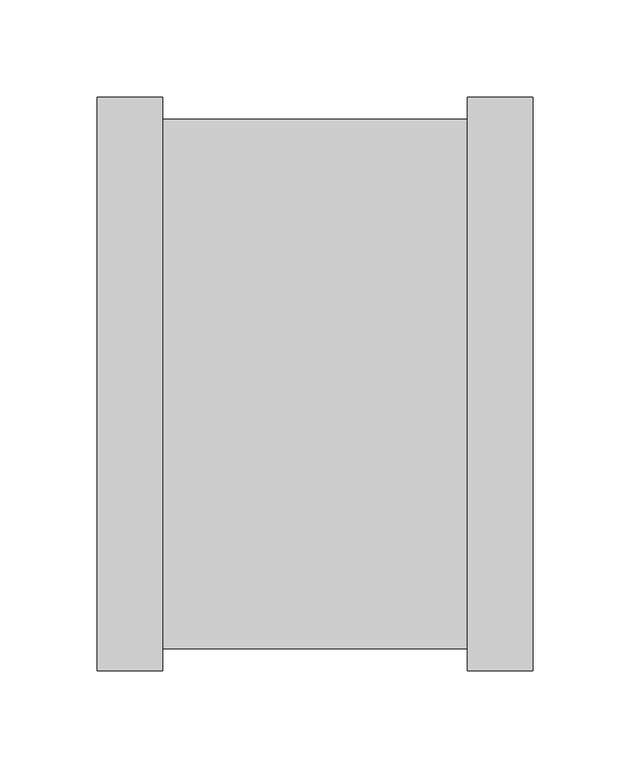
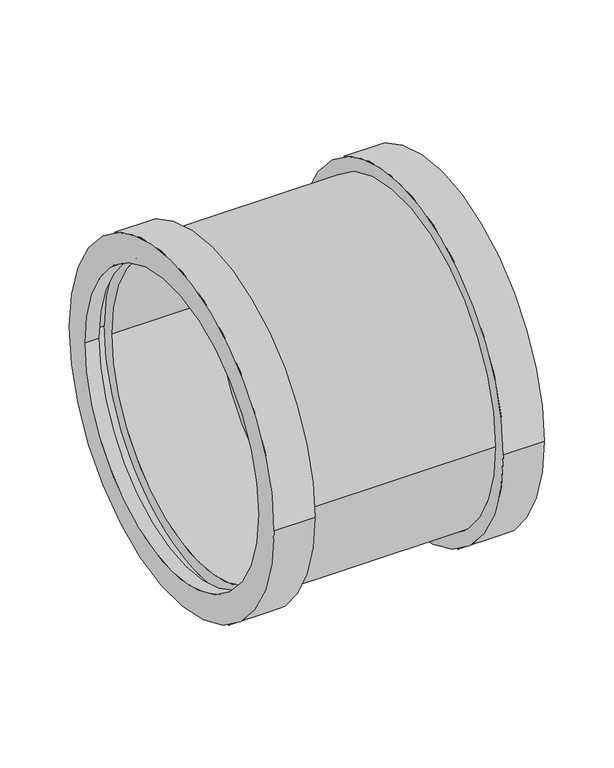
"""IFC4 building model written with IfcOpenShell, lengths in millimetres: pipe fitting geometry, AWADUKT PP Union DSM : Blue No PID."""

from ifc_helpers import new_model, si_unit, frame, origin, place, context, project, spatial, polyline, circle_curve, source, transform, mapped, element, save
from ifc_brep_helpers import plane_surface, cylinder_surface, revolved_surface, advanced_brep


def pipe_fitting_a818c1c7(model_context):
    return source(origin(), model_context, "Body", "AdvancedBrep", [
        advanced_brep(
        [(-86.9, -125.0, 0.0), (-86.9, 125.0, 0.0), (0.0, 125.0, 0.0), (0.0, -125.0, 0.0), (-98.0, -136.4, 0.0), (-98.0, 136.4, 0.0), (-86.9, 136.4, 0.0), (-86.9, -136.4, 0.0), (-109.4, -125.0, 0.0), (-109.4, 125.0, 0.0), (-98.0, 125.0, 0.0), (-98.0, -125.0, 0.0), (-75.5, -147.8, 0.0), (-75.5, 147.8, 0.0), (-109.4, 147.8, 0.0), (-109.4, -147.8, 0.0), (81.5, -136.4, 0.0), (81.5, 136.4, 0.0), (-75.5, 136.4, 0.0), (-75.5, -136.4, 0.0), (115.4, -147.8, 0.0), (115.4, 147.8, 0.0), (81.5, 147.8, 0.0), (81.5, -147.8, 0.0), (104.0, -125.0, 0.0), (104.0, 125.0, 0.0), (115.4, 125.0, 0.0), (115.4, -125.0, 0.0), (92.9, -136.4, 0.0), (92.9, 136.4, 0.0), (104.0, 136.4, 0.0), (104.0, -136.4, 0.0), (6.0, -125.0, 0.0), (6.0, 125.0, 0.0), (92.9, 125.0, 0.0), (92.9, -125.0, 0.0), (0.0, -113.6, 0.0), (0.0, 113.6, 0.0), (6.0, 113.6, 0.0), (6.0, -113.6, 0.0)],
        [
            (0, 1, circle_curve(frame((-86.9, 0.0, 0.0), z_axis=(-1.0, 0.0, 0.0), x_axis=(0.0, 1.0, 0.0)), 125.0)),
            (1, 2),
            (2, 3, circle_curve(frame((0.0, 0.0, 0.0), z_axis=(1.0, 0.0, 0.0), x_axis=(0.0, 1.0, 0.0)), 125.0)),
            (3, 0),
            (4, 5, circle_curve(frame((-98.0, 0.0, 0.0), z_axis=(-1.0, 0.0, 0.0), x_axis=(0.0, 1.0, 0.0)), 136.4)),
            (5, 6),
            (6, 7, circle_curve(frame((-86.9, 0.0, 0.0), z_axis=(1.0, 0.0, 0.0), x_axis=(0.0, 1.0, 0.0)), 136.4)),
            (7, 4),
            (8, 9, circle_curve(frame((-109.4, 0.0, 0.0), z_axis=(-1.0, 0.0, 0.0), x_axis=(0.0, 1.0, 0.0)), 125.0)),
            (9, 10),
            (10, 11, circle_curve(frame((-98.0, 0.0, 0.0), z_axis=(1.0, 0.0, 0.0), x_axis=(0.0, 1.0, 0.0)), 125.0)),
            (11, 8),
            (12, 13, circle_curve(frame((-75.5, 0.0, 0.0), z_axis=(-1.0, 0.0, 0.0), x_axis=(0.0, 1.0, 0.0)), 147.8)),
            (13, 14),
            (14, 15, circle_curve(frame((-109.4, 0.0, 0.0), z_axis=(1.0, 0.0, 0.0), x_axis=(0.0, 1.0, 0.0)), 147.8)),
            (15, 12),
            (16, 17, circle_curve(frame((81.5, 0.0, 0.0), z_axis=(-1.0, 0.0, 0.0), x_axis=(0.0, 1.0, 0.0)), 136.4)),
            (17, 18),
            (18, 19, circle_curve(frame((-75.5, 0.0, 0.0), z_axis=(1.0, 0.0, 0.0), x_axis=(0.0, 1.0, 0.0)), 136.4)),
            (19, 16),
            (20, 21, circle_curve(frame((115.4, 0.0, 0.0), z_axis=(-1.0, 0.0, 0.0), x_axis=(0.0, 1.0, 0.0)), 147.8)),
            (21, 22),
            (22, 23, circle_curve(frame((81.5, 0.0, 0.0), z_axis=(1.0, 0.0, 0.0), x_axis=(0.0, 1.0, 0.0)), 147.8)),
            (23, 20),
            (24, 25, circle_curve(frame((104.0, 0.0, 0.0), z_axis=(-1.0, 0.0, 0.0), x_axis=(0.0, 1.0, 0.0)), 125.0)),
            (25, 26),
            (26, 27, circle_curve(frame((115.4, 0.0, 0.0), z_axis=(1.0, 0.0, 0.0), x_axis=(0.0, 1.0, 0.0)), 125.0)),
            (27, 24),
            (28, 29, circle_curve(frame((92.9, 0.0, 0.0), z_axis=(-1.0, 0.0, 0.0), x_axis=(0.0, 1.0, 0.0)), 136.4)),
            (29, 30),
            (30, 31, circle_curve(frame((104.0, 0.0, 0.0), z_axis=(1.0, 0.0, 0.0), x_axis=(0.0, 1.0, 0.0)), 136.4)),
            (31, 28),
            (32, 33, circle_curve(frame((6.0, 0.0, 0.0), z_axis=(-1.0, 0.0, 0.0), x_axis=(0.0, 1.0, 0.0)), 125.0)),
            (33, 34),
            (34, 35, circle_curve(frame((92.9, 0.0, 0.0), z_axis=(1.0, 0.0, 0.0), x_axis=(0.0, 1.0, 0.0)), 125.0)),
            (35, 32),
            (36, 37, circle_curve(frame((0.0, 0.0, 0.0), z_axis=(-1.0, 0.0, 0.0), x_axis=(0.0, 1.0, 0.0)), 113.6)),
            (37, 38),
            (38, 39, circle_curve(frame((6.0, 0.0, 0.0), z_axis=(1.0, 0.0, 0.0), x_axis=(0.0, 1.0, 0.0)), 113.6)),
            (39, 36),
            (1, 0, circle_curve(frame((-86.9, 0.0, 0.0), z_axis=(-1.0, 0.0, 0.0), x_axis=(0.0, -1.0, 0.0)), 125.0)),
            (3, 2, circle_curve(frame((0.0, 0.0, 0.0), z_axis=(1.0, 0.0, 0.0), x_axis=(0.0, -1.0, 0.0)), 125.0)),
            (6, 7, circle_curve(frame((-86.9, 0.0, 0.0), z_axis=(-1.0, 0.0, 0.0), x_axis=(0.0, -1.0, 0.0)), 136.4)),
            (5, 4, circle_curve(frame((-98.0, 0.0, 0.0), z_axis=(-1.0, 0.0, 0.0), x_axis=(0.0, -1.0, 0.0)), 136.4)),
            (10, 11, circle_curve(frame((-98.0, 0.0, 0.0), z_axis=(-1.0, 0.0, 0.0), x_axis=(0.0, -1.0, 0.0)), 125.0)),
            (9, 8, circle_curve(frame((-109.4, 0.0, 0.0), z_axis=(-1.0, 0.0, 0.0), x_axis=(0.0, -1.0, 0.0)), 125.0)),
            (14, 15, circle_curve(frame((-109.4, 0.0, 0.0), z_axis=(-1.0, 0.0, 0.0), x_axis=(0.0, -1.0, 0.0)), 147.8)),
            (13, 12, circle_curve(frame((-75.5, 0.0, 0.0), z_axis=(-1.0, 0.0, 0.0), x_axis=(0.0, -1.0, 0.0)), 147.8)),
            (18, 19, circle_curve(frame((-75.5, 0.0, 0.0), z_axis=(-1.0, 0.0, 0.0), x_axis=(0.0, -1.0, 0.0)), 136.4)),
            (17, 16, circle_curve(frame((81.5, 0.0, 0.0), z_axis=(-1.0, 0.0, 0.0), x_axis=(0.0, -1.0, 0.0)), 136.4)),
            (22, 23, circle_curve(frame((81.5, 0.0, 0.0), z_axis=(-1.0, 0.0, 0.0), x_axis=(0.0, -1.0, 0.0)), 147.8)),
            (21, 20, circle_curve(frame((115.4, 0.0, 0.0), z_axis=(-1.0, 0.0, 0.0), x_axis=(0.0, -1.0, 0.0)), 147.8)),
            (26, 27, circle_curve(frame((115.4, 0.0, 0.0), z_axis=(-1.0, 0.0, 0.0), x_axis=(0.0, -1.0, 0.0)), 125.0)),
            (25, 24, circle_curve(frame((104.0, 0.0, 0.0), z_axis=(-1.0, 0.0, 0.0), x_axis=(0.0, -1.0, 0.0)), 125.0)),
            (30, 31, circle_curve(frame((104.0, 0.0, 0.0), z_axis=(-1.0, 0.0, 0.0), x_axis=(0.0, -1.0, 0.0)), 136.4)),
            (29, 28, circle_curve(frame((92.9, 0.0, 0.0), z_axis=(-1.0, 0.0, 0.0), x_axis=(0.0, -1.0, 0.0)), 136.4)),
            (34, 35, circle_curve(frame((92.9, 0.0, 0.0), z_axis=(-1.0, 0.0, 0.0), x_axis=(0.0, -1.0, 0.0)), 125.0)),
            (33, 32, circle_curve(frame((6.0, 0.0, 0.0), z_axis=(-1.0, 0.0, 0.0), x_axis=(0.0, -1.0, 0.0)), 125.0)),
            (38, 39, circle_curve(frame((6.0, 0.0, 0.0), z_axis=(-1.0, 0.0, 0.0), x_axis=(0.0, -1.0, 0.0)), 113.6)),
            (37, 36, circle_curve(frame((0.0, 0.0, 0.0), z_axis=(-1.0, 0.0, 0.0), x_axis=(0.0, -1.0, 0.0)), 113.6)),
        ],
        [
            revolved_surface(polyline([(0.0, 125.0, 0.0), (-86.9, 125.0, 0.0)]), (3.0, 0.0, 0.0), (1.0, 0.0, 0.0)),
            revolved_surface(polyline([(-86.9, 136.4, 0.0), (-98.0, 136.4, 0.0)]), (3.0, 0.0, 0.0), (1.0, 0.0, 0.0)),
            revolved_surface(polyline([(-98.0, 125.0, 0.0), (-109.4, 125.0, 0.0)]), (3.0, 0.0, 0.0), (1.0, 0.0, 0.0)),
            cylinder_surface(frame((3.0, 0.0, 0.0), z_axis=(1.0, 0.0, 0.0), x_axis=(0.0, 1.0, 0.0)), 147.8),
            cylinder_surface(frame((3.0, 0.0, 0.0), z_axis=(1.0, 0.0, 0.0), x_axis=(0.0, 1.0, 0.0)), 136.4),
            revolved_surface(polyline([(115.4, 125.0, 0.0), (104.0, 125.0, 0.0)]), (3.0, 0.0, 0.0), (1.0, 0.0, 0.0)),
            revolved_surface(polyline([(104.0, 136.4, 0.0), (92.9, 136.4, 0.0)]), (3.0, 0.0, 0.0), (1.0, 0.0, 0.0)),
            revolved_surface(polyline([(92.9, 125.0, 0.0), (6.0, 125.0, 0.0)]), (3.0, 0.0, 0.0), (1.0, 0.0, 0.0)),
            revolved_surface(polyline([(6.0, 113.6, 0.0), (0.0, 113.6, 0.0)]), (3.0, 0.0, 0.0), (1.0, 0.0, 0.0)),
            revolved_surface(polyline([(0.0, -125.0, 0.0), (-86.9, -125.0, 0.0)]), (3.0, 0.0, 0.0), (1.0, 0.0, 0.0)),
            plane_surface(frame((-86.9, 0.0, 0.0), z_axis=(-1.0, 0.0, 0.0), x_axis=(0.0, -1.0, 0.0))),
            revolved_surface(polyline([(-86.9, -136.4, 0.0), (-98.0, -136.4, 0.0)]), (3.0, 0.0, 0.0), (1.0, 0.0, 0.0)),
            plane_surface(frame((-98.0, 0.0, 0.0), z_axis=(1.0, 0.0, 0.0), x_axis=(0.0, -1.0, 0.0))),
            revolved_surface(polyline([(-98.0, -125.0, 0.0), (-109.4, -125.0, 0.0)]), (3.0, 0.0, 0.0), (1.0, 0.0, 0.0)),
            plane_surface(frame((-109.4, 0.0, 0.0), z_axis=(-1.0, 0.0, 0.0), x_axis=(0.0, -1.0, 0.0))),
            cylinder_surface(frame((3.0, 0.0, 0.0), z_axis=(1.0, 0.0, 0.0), x_axis=(0.0, -1.0, 0.0)), 147.8),
            plane_surface(frame((-75.5, 0.0, 0.0), z_axis=(1.0, 0.0, 0.0), x_axis=(0.0, -1.0, 0.0))),
            cylinder_surface(frame((3.0, 0.0, 0.0), z_axis=(1.0, 0.0, 0.0), x_axis=(0.0, -1.0, 0.0)), 136.4),
            plane_surface(frame((81.5, 0.0, 0.0), z_axis=(-1.0, 0.0, 0.0), x_axis=(0.0, -1.0, 0.0))),
            plane_surface(frame((115.4, 0.0, 0.0), z_axis=(1.0, 0.0, 0.0), x_axis=(0.0, -1.0, 0.0))),
            revolved_surface(polyline([(115.4, -125.0, 0.0), (104.0, -125.0, 0.0)]), (3.0, 0.0, 0.0), (1.0, 0.0, 0.0)),
            plane_surface(frame((104.0, 0.0, 0.0), z_axis=(-1.0, 0.0, 0.0), x_axis=(0.0, -1.0, 0.0))),
            revolved_surface(polyline([(104.0, -136.4, 0.0), (92.9, -136.4, 0.0)]), (3.0, 0.0, 0.0), (1.0, 0.0, 0.0)),
            plane_surface(frame((92.9, 0.0, 0.0), z_axis=(1.0, 0.0, 0.0), x_axis=(0.0, -1.0, 0.0))),
            revolved_surface(polyline([(92.9, -125.0, 0.0), (6.0, -125.0, 0.0)]), (3.0, 0.0, 0.0), (1.0, 0.0, 0.0)),
            plane_surface(frame((6.0, 0.0, 0.0), z_axis=(1.0, 0.0, 0.0), x_axis=(0.0, -1.0, 0.0))),
            revolved_surface(polyline([(6.0, -113.6, 0.0), (0.0, -113.6, 0.0)]), (3.0, 0.0, 0.0), (1.0, 0.0, 0.0)),
            plane_surface(frame((0.0, 0.0, 0.0), z_axis=(-1.0, 0.0, 0.0), x_axis=(0.0, -1.0, 0.0))),
        ],
        [
            (0, [[1, 2, 3, 4]]),
            (1, [[5, 6, 7, 8]]),
            (2, [[9, 10, 11, 12]]),
            (3, [[13, 14, 15, 16]]),
            (4, [[17, 18, 19, 20]]),
            (3, [[21, 22, 23, 24]]),
            (5, [[25, 26, 27, 28]]),
            (6, [[29, 30, 31, 32]]),
            (7, [[33, 34, 35, 36]]),
            (8, [[37, 38, 39, 40]]),
            (9, [[41, -4, 42, -2]]),
            (10, [[43, -7], [-41, -1]]),
            (11, [[44, -8, -43, -6]]),
            (12, [[-44, -5], [45, -11]]),
            (13, [[46, -12, -45, -10]]),
            (14, [[47, -15], [-46, -9]]),
            (15, [[48, -16, -47, -14]]),
            (16, [[-48, -13], [49, -19]]),
            (17, [[50, -20, -49, -18]]),
            (18, [[51, -23], [-50, -17]]),
            (15, [[52, -24, -51, -22]]),
            (19, [[-52, -21], [53, -27]]),
            (20, [[54, -28, -53, -26]]),
            (21, [[55, -31], [-54, -25]]),
            (22, [[56, -32, -55, -30]]),
            (23, [[-56, -29], [57, -35]]),
            (24, [[58, -36, -57, -34]]),
            (25, [[-58, -33], [59, -39]]),
            (26, [[60, -40, -59, -38]]),
            (27, [[-42, -3], [-60, -37]]),
        ],
    ),
    ])


if __name__ == "__main__":
    model = new_model("IFC4")
    model_context = context("Model", 3, world=origin())
    ifc_project = project(units=[si_unit("LENGTHUNIT", "METRE", prefix="MILLI")], contexts=[model_context])
    site = spatial("IfcSite", under=ifc_project)
    building = spatial("IfcBuilding", under=site)
    placement = place(None, origin())
    pipe_fitting_shape = pipe_fitting_a818c1c7(model_context)
    element("IfcPipeFitting", 1, ObjectType="AWADUKT PP Union DSM : Blue No PID", at=placement, inside=building, context=model_context, shape_type="MappedRepresentation", body=[
        mapped(pipe_fitting_shape, transform((0.0, 0.0, 0.0), x_axis=(1.0, 0.0, 0.0), y_axis=(0.0, 1.0, 0.0), z_axis=(0.0, 0.0, 1.0))),
    ])
    save(model, "model.ifc")
